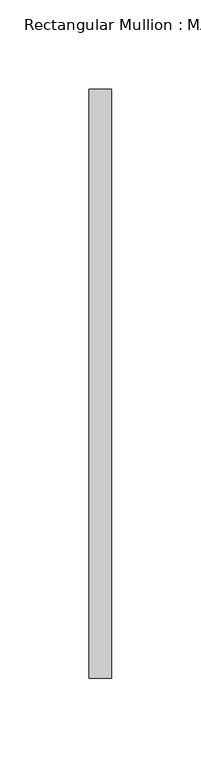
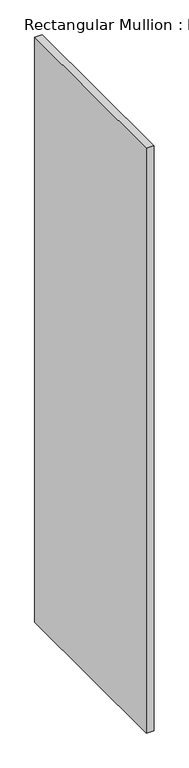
"""IFC4 building model written with IfcOpenShell, lengths in millimetres: member geometry, Rectangular Mullion : MARBLE PORTAL."""

from ifc_helpers import new_model, si_unit, frame, origin, place, context, project, spatial, polyline, outline, extrude, source, transform, mapped, element, save


def rectangular_mullion_marble_portal_362a1233(model_context):
    return source(origin(), model_context, "Body", "SweptSolid", [
        extrude(outline(polyline([(6.35, 190.5), (6.35, -139.7), (-6.35, -139.7), (-6.35, 190.5), (6.35, 190.5)])), frame((0.0, 0.0, -1054.1), z_axis=(0.0, 0.0, 1.0), x_axis=(1.0, 0.0, 0.0)), (0.0, 0.0, 1.0), 1054.1),
    ])


if __name__ == "__main__":
    model = new_model("IFC4")
    model_context = context("Model", 3, world=origin())
    ifc_project = project(units=[si_unit("LENGTHUNIT", "METRE", prefix="MILLI")], contexts=[model_context])
    site = spatial("IfcSite", under=ifc_project)
    building = spatial("IfcBuilding", under=site)
    placement = place(None, origin())
    rectangular_mullion_marble_portal_shape = rectangular_mullion_marble_portal_362a1233(model_context)
    element("IfcMember", 1, ObjectType="Rectangular Mullion : MARBLE PORTAL", at=placement, inside=building, context=model_context, shape_type="MappedRepresentation", body=[
        mapped(rectangular_mullion_marble_portal_shape, transform((0.0, 0.0, 0.0), x_axis=(1.0, 0.0, 0.0), y_axis=(0.0, 1.0, 0.0), z_axis=(0.0, 0.0, 1.0))),
    ])
    save(model, "model.ifc")
